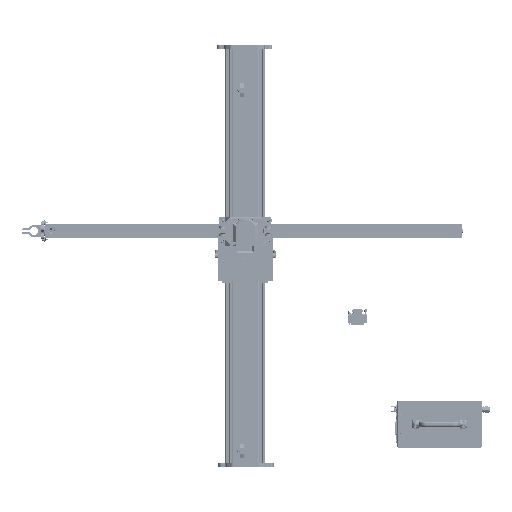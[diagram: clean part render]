
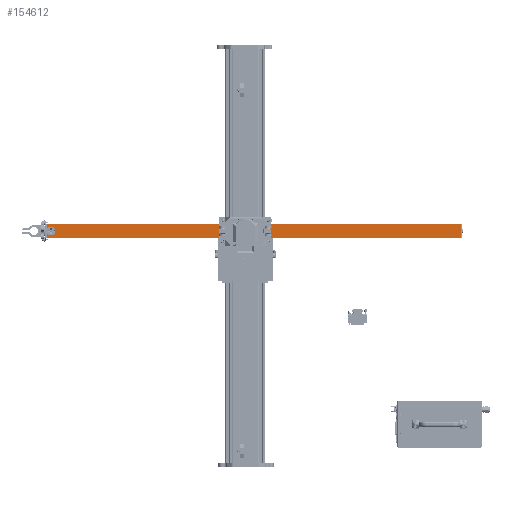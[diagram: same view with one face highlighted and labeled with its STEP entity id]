
A CAD part, top view. The second image highlights one B-rep face of the part: STEP entity #154612.
In plain terms, the highlighted planar face has unit normal (0, 0, 1).
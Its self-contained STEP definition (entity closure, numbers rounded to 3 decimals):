
#11154=FACE_BOUND('',#30815,.T.);
#11155=FACE_BOUND('',#30816,.T.);
#11156=FACE_BOUND('',#30817,.T.);
#14495=CIRCLE('',#167020,1.265);
#14499=CIRCLE('',#167026,1.265);
#14502=CIRCLE('',#167030,1.666);
#20916=FACE_OUTER_BOUND('',#30814,.T.);
#30814=EDGE_LOOP('',(#113056,#113057,#113058,#113059));
#30815=EDGE_LOOP('',(#113060));
#30816=EDGE_LOOP('',(#113061));
#30817=EDGE_LOOP('',(#113062));
#42870=LINE('',#229909,#55731);
#42888=LINE('',#229943,#55749);
#42894=LINE('',#229954,#55755);
#42895=LINE('',#229956,#55756);
#55731=VECTOR('',#188519,10.);
#55749=VECTOR('',#188547,10.);
#55755=VECTOR('',#188557,10.);
#55756=VECTOR('',#188560,10.);
#68628=VERTEX_POINT('',#229882);
#68632=VERTEX_POINT('',#229894);
#68634=VERTEX_POINT('',#229901);
#68636=VERTEX_POINT('',#229907);
#68637=VERTEX_POINT('',#229908);
#68648=VERTEX_POINT('',#229942);
#68651=VERTEX_POINT('',#229952);
#85065=EDGE_CURVE('',#68628,#68628,#14495,.T.);
#85071=EDGE_CURVE('',#68632,#68632,#14499,.T.);
#85075=EDGE_CURVE('',#68634,#68634,#14502,.T.);
#85078=EDGE_CURVE('',#68636,#68637,#42870,.T.);
#85096=EDGE_CURVE('',#68648,#68637,#42888,.T.);
#85102=EDGE_CURVE('',#68636,#68651,#42894,.T.);
#85103=EDGE_CURVE('',#68648,#68651,#42895,.T.);
#113056=ORIENTED_EDGE('',*,*,#85102,.T.);
#113057=ORIENTED_EDGE('',*,*,#85103,.F.);
#113058=ORIENTED_EDGE('',*,*,#85096,.T.);
#113059=ORIENTED_EDGE('',*,*,#85078,.F.);
#113060=ORIENTED_EDGE('',*,*,#85065,.T.);
#113061=ORIENTED_EDGE('',*,*,#85071,.T.);
#113062=ORIENTED_EDGE('',*,*,#85075,.T.);
#149079=PLANE('',#167040);
#154612=ADVANCED_FACE('',(#20916,#11154,#11155,#11156),#149079,.T.);
#167020=AXIS2_PLACEMENT_3D('',#229883,#188489,#188490);
#167026=AXIS2_PLACEMENT_3D('',#229895,#188503,#188504);
#167030=AXIS2_PLACEMENT_3D('',#229902,#188512,#188513);
#167040=AXIS2_PLACEMENT_3D('',#229955,#188558,#188559);
#188489=DIRECTION('center_axis',(0.,0.,-1.));
#188490=DIRECTION('ref_axis',(-1.,0.,0.));
#188503=DIRECTION('center_axis',(0.,0.,-1.));
#188504=DIRECTION('ref_axis',(-1.,0.,0.));
#188512=DIRECTION('center_axis',(0.,0.,-1.));
#188513=DIRECTION('ref_axis',(-1.,0.,0.));
#188519=DIRECTION('',(0.,1.,0.));
#188547=DIRECTION('',(-1.,0.,0.));
#188557=DIRECTION('',(1.,0.,0.));
#188558=DIRECTION('center_axis',(0.,0.,1.));
#188559=DIRECTION('ref_axis',(0.,-1.,0.));
#188560=DIRECTION('',(0.,-1.,0.));
#229882=CARTESIAN_POINT('',(-518.736,17.5,20.));
#229883=CARTESIAN_POINT('Origin',(-520.,17.5,20.));
#229894=CARTESIAN_POINT('',(481.265,17.5,20.));
#229895=CARTESIAN_POINT('Origin',(480.,17.5,20.));
#229901=CARTESIAN_POINT('',(-586.334,0.,20.));
#229902=CARTESIAN_POINT('Origin',(-588.,0.,20.));
#229907=CARTESIAN_POINT('',(-600.,-20.,20.));
#229908=CARTESIAN_POINT('',(-600.,20.,20.));
#229909=CARTESIAN_POINT('',(-600.,-20.,20.));
#229942=CARTESIAN_POINT('',(600.,20.,20.));
#229943=CARTESIAN_POINT('',(0.,20.,20.));
#229952=CARTESIAN_POINT('',(600.,-20.,20.));
#229954=CARTESIAN_POINT('',(0.,-20.,20.));
#229955=CARTESIAN_POINT('Origin',(0.,20.,20.));
#229956=CARTESIAN_POINT('',(600.,-20.,20.));
